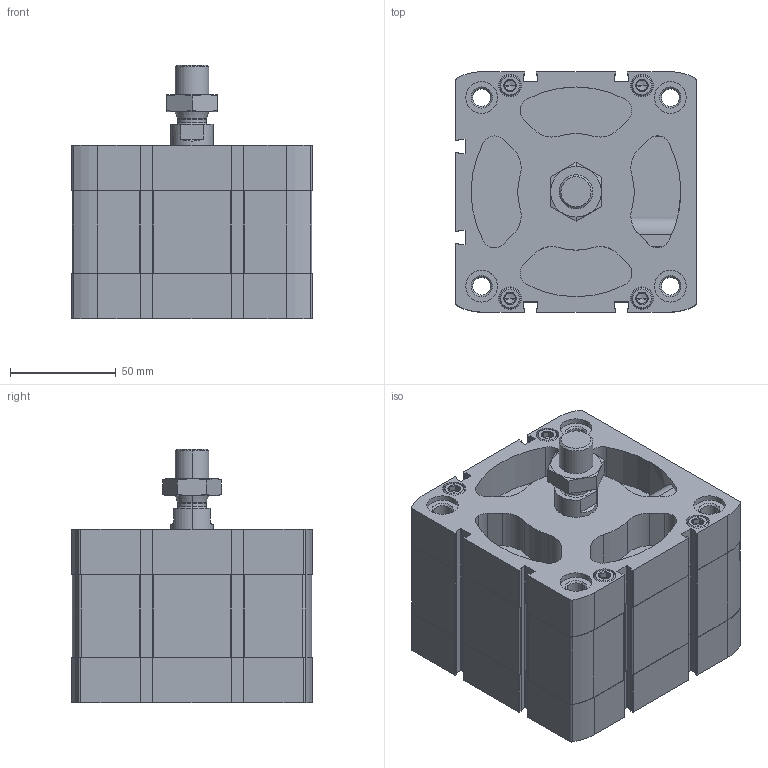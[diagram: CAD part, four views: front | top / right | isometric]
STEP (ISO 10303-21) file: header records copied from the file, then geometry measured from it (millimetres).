
FILE_DESCRIPTION (( 'STEP AP203' ), '1' );
FILE_NAME ('CCN100-15M.STEP', '2020-06-05T18:05:56', ( '' ), ( '' ), 'SwSTEP 2.0', 'SolidWorks 2019', '' );
FILE_SCHEMA (( 'CONFIG_CONTROL_DESIGN' ));
Length unit declared in the file: millimetre
Products named in the file (1): CCN100-15M
Bounding box: 113.5 x 113.5 x 119.8 mm (x, y, z)
Volume: 762884.8 mm3; surface area: 158563.6 mm2
Topology: 3 solids, 3 shells, 648 faces, 1673 edges, 1068 vertices
Faces by surface type: plane 292, cylinder 272, cone 80, torus 4
Entity records: 21246 total; most frequent: CARTESIAN_POINT 4984, DIRECTION 3541, ORIENTED_EDGE 3314, EDGE_CURVE 1657, AXIS2_PLACEMENT_3D 1319, VERTEX_POINT 1068, LINE 903, VECTOR 903
